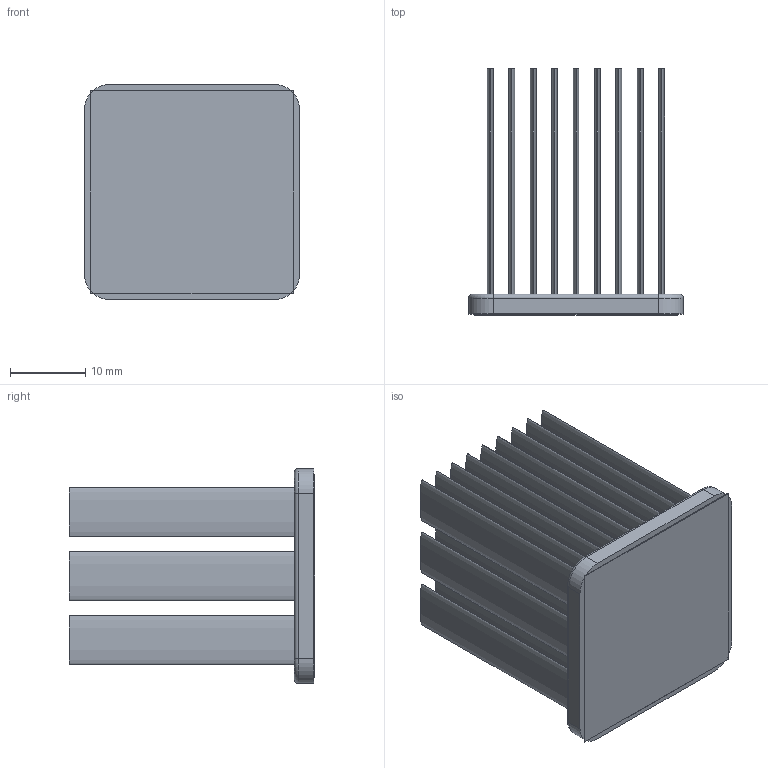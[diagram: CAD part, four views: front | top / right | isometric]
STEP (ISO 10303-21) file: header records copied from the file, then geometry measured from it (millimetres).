
FILE_DESCRIPTION (( 'STEP AP214' ), '1' );
FILE_NAME ('INM29001-33W-2.6.STEP', '2023-02-17T21:24:59', ( '' ), ( '' ), 'SwSTEP 2.0', 'SolidWorks 2020', '' );
FILE_SCHEMA (( 'AUTOMOTIVE_DESIGN' ));
Length unit declared in the file: inch
Products named in the file (1): INM29001-33W-2.6
Bounding box: 28.6 x 32.73 x 28.6 mm (x, y, z)
Volume: 5716.1 mm3; surface area: 14296.4 mm2
Topology: 2 solids, 2 shells, 105 faces, 214 edges, 140 vertices
Faces by surface type: bspline 54, plane 39, cylinder 8, torus 4
Entity records: 4282 total; most frequent: CARTESIAN_POINT 1162, ORIENTED_EDGE 428, DIRECTION 230, EDGE_CURVE 214, VERTEX_POINT 140, EDGE_LOOP 132, DIMENSIONAL_EXPONENTS 109, LENGTH_MEASURE_WITH_UNIT 109
